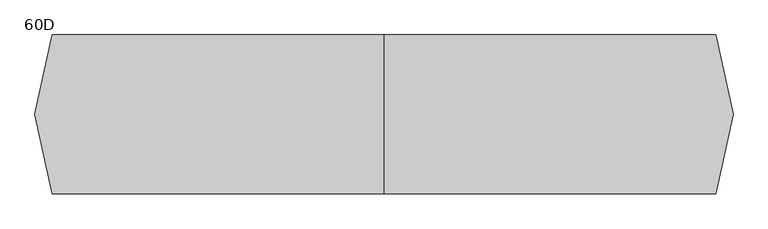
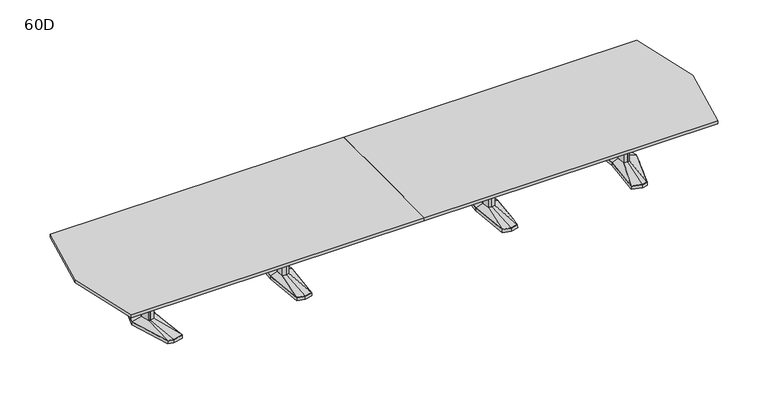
"""IFC4 building model written with IfcOpenShell, lengths in millimetres: furniture geometry, Coalesse_AM_Table_Conference_ETable2_Faceted_22ft_AluminiumBase : 60D."""

from ifc_helpers import new_model, si_unit, frame, origin, place, context, project, spatial, polyline, outline, extrude, faceted_brep, source, transform, mapped, element, save
from ifc_brep_helpers import plane_surface, spline_surface, advanced_brep


def furniture_60d_ac7cfff5(model_context):
    return source(origin(), model_context, "Body", "SolidModel", [
        faceted_brep([(1036.3666209, -433.8053819, 38.1), (1117.6, -455.556576, 38.1), (1198.8333791, -433.8053819, 38.1), (1236.6564774, 0.0, 38.1), (1198.8333791, 433.8053819, 38.1), (1117.6, 455.556576, 38.1), (1036.3666209, 433.8053819, 38.1), (998.5435226, 0.0, 38.1), (1034.8817205, -435.0512063, 3.175), (996.95, 0.0, 3.175), (1034.8817205, 435.0512063, 3.175), (1117.6, 457.2, 3.175), (1200.3182795, 435.0512063, 3.175), (1238.25, 0.0, 3.175), (1200.3182795, -435.0512063, 3.175), (1117.6, -457.2, 3.175), (1117.6, 429.2617927, 3.175), (1039.6323194, 408.3850278, 3.175), (1042.8980179, 382.9646737, 3.175), (1117.6, 402.9670094, 3.175), (1192.3019821, 382.9646737, 3.175), (1195.5676806, 408.3850278, 3.175), (1117.6, -429.2617927, 3.175), (1195.5676806, -408.3850278, 3.175), (1192.3019821, -382.9646737, 3.175), (1117.6, -402.9670094, 3.175), (1042.8980179, -382.9646737, 3.175), (1039.6323194, -408.3850278, 3.175), (1045.7425738, 114.6326257, 3.175), (1035.0573924, 0.0, 3.175), (1045.7425738, -114.6326257, 3.175), (1117.6, -133.8761372, 3.175), (1189.4574262, -114.6326257, 3.175), (1200.1426076, 0.0, 3.175), (1189.4574262, 114.6326257, 3.175), (1117.6, 133.8761372, 3.175), (1117.6, 429.2617927, 0.0), (1195.5676806, 408.3850278, 0.0), (1192.3019821, 382.9646737, 0.0), (1117.6, 402.9670094, 0.0), (1042.8980179, 382.9646737, 0.0), (1039.6323194, 408.3850278, 0.0), (1117.6, -429.2617927, 0.0), (1039.6323194, -408.3850278, 0.0), (1042.8980179, -382.9646737, 0.0), (1117.6, -402.9670094, 0.0), (1192.3019821, -382.9646737, 0.0), (1195.5676806, -408.3850278, 0.0), (1045.7425738, 114.6326257, 0.0), (1117.6, 133.8761372, 0.0), (1189.4574262, 114.6326257, 0.0), (1200.1426076, 0.0, 0.0), (1189.4574262, -114.6326257, 0.0), (1117.6, -133.8761372, 0.0), (1045.7425738, -114.6326257, 0.0), (1035.0573924, 0.0, 0.0)], [[[0, 1, 2, 3, 4, 5, 6, 7]], [[8, 9, 10, 11, 12, 13, 14, 15], [16, 17, 18, 19, 20, 21], [22, 23, 24, 25, 26, 27], [28, 29, 30, 31, 32, 33, 34, 35]], [[1, 0, 8, 15]], [[2, 1, 15, 14]], [[3, 2, 14, 13]], [[4, 3, 13, 12]], [[5, 4, 12, 11]], [[6, 5, 11, 10]], [[7, 6, 10, 9]], [[0, 7, 9, 8]], [[36, 37, 38, 39, 40, 41]], [[42, 43, 44, 45, 46, 47]], [[48, 49, 50, 51, 52, 53, 54, 55]], [[36, 41, 17, 16]], [[41, 40, 18, 17]], [[40, 39, 19, 18]], [[39, 38, 20, 19]], [[38, 37, 21, 20]], [[37, 36, 16, 21]], [[42, 47, 23, 22]], [[47, 46, 24, 23]], [[46, 45, 25, 24]], [[45, 44, 26, 25]], [[44, 43, 27, 26]], [[43, 42, 22, 27]], [[48, 55, 29, 28]], [[55, 54, 30, 29]], [[54, 53, 31, 30]], [[53, 52, 32, 31]], [[52, 51, 33, 32]], [[51, 50, 34, 33]], [[50, 49, 35, 34]], [[49, 48, 28, 35]]]),
        faceted_brep([(1081.2167166, 84.6900825, 698.5), (1073.3225513, 0.0, 698.5), (1081.2167166, -84.6900825, 698.5), (1117.6, -94.4335728, 698.5), (1153.9832834, -84.6900825, 698.5), (1161.8774487, 0.0, 698.5), (1153.9832834, 84.6900825, 698.5), (1117.6, 94.4335728, 698.5), (1081.2167166, 84.6900825, 63.5), (1117.6, 94.4335728, 63.5), (1153.9832834, 84.6900825, 63.5), (1161.8774487, 0.0, 63.5), (1153.9832834, -84.6900825, 63.5), (1117.6, -94.4335728, 63.5), (1081.2167166, -84.6900825, 63.5), (1073.3225513, 0.0, 63.5)], [[[0, 1, 2, 3, 4, 5, 6, 7]], [[8, 9, 10, 11, 12, 13, 14, 15]], [[1, 0, 8, 15]], [[2, 1, 15, 14]], [[3, 2, 14, 13]], [[4, 3, 13, 12]], [[5, 4, 12, 11]], [[6, 5, 11, 10]], [[7, 6, 10, 9]], [[0, 7, 9, 8]]]),
        advanced_brep(
        [(1081.2167166, 84.6900825, 63.5), (1073.3225513, 0.0, 63.5), (1081.2167166, -84.6900825, 63.5), (1117.6, -94.4335728, 63.5), (1153.9832834, -84.6900825, 63.5), (1161.8774487, 0.0, 63.5), (1153.9832834, 84.6900825, 63.5), (1117.6, 94.4335728, 63.5), (1036.3666209, 433.8053819, 38.1), (1117.6, 455.556576, 38.1), (1198.8333791, 433.8053819, 38.1), (1236.6564774, 0.0, 38.1), (1198.8333791, -433.8053819, 38.1), (1117.6, -455.556576, 38.1), (1036.3666209, -433.8053819, 38.1), (998.5435226, 0.0, 38.1)],
        [
            (0, 1),
            (1, 2),
            (2, 3),
            (3, 4),
            (4, 5),
            (5, 6),
            (6, 7),
            (7, 0),
            (8, 9),
            (9, 10),
            (10, 11),
            (11, 12),
            (12, 13),
            (13, 14),
            (14, 15),
            (15, 8),
            (15, 1),
            (0, 8),
            (14, 2),
            (13, 3),
            (12, 4),
            (11, 5),
            (10, 6),
            (9, 7),
        ],
        [
            plane_surface(frame((1117.6, 0.0, 63.5), z_axis=(0.0, 0.0, 1.0000000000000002), x_axis=(-0.9659615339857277, -0.25868574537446, 0.0))),
            plane_surface(frame((1117.6, 0.0, 38.1), z_axis=(0.0, 0.0, -1.0000000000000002), x_axis=(-0.9659615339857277, -0.25868574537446, 0.0))),
            spline_surface(1, 1, [[(1036.3666209, 433.8053819, 38.1), (1081.2167166, 84.6900825, 63.5)], [(998.5435226, 0.0, 38.1), (1073.3225513, 0.0, 63.5)]], [2, 2], [2, 2], [0.0, 1.0], [0.0, 1.0]),
            spline_surface(1, 1, [[(998.5435226, 0.0, 38.1), (1073.3225513, 0.0, 63.5)], [(1036.3666209, -433.8053819, 38.1), (1081.2167166, -84.6900825, 63.5)]], [2, 2], [2, 2], [0.0, 1.0], [0.0, 1.0]),
            spline_surface(1, 1, [[(1036.3666209, -433.8053819, 38.1), (1081.2167166, -84.6900825, 63.5)], [(1117.6, -455.556576, 38.1), (1117.6, -94.4335728, 63.5)]], [2, 2], [2, 2], [0.0, 1.0], [0.0, 1.0]),
            spline_surface(1, 1, [[(1117.6, -455.556576, 38.1), (1117.6, -94.4335728, 63.5)], [(1198.8333791, -433.8053819, 38.1), (1153.9832834, -84.6900825, 63.5)]], [2, 2], [2, 2], [0.0, 1.0], [0.0, 1.0]),
            spline_surface(1, 1, [[(1198.8333791, -433.8053819, 38.1), (1153.9832834, -84.6900825, 63.5)], [(1236.6564774, 0.0, 38.1), (1161.8774487, 0.0, 63.5)]], [2, 2], [2, 2], [0.0, 1.0], [0.0, 1.0]),
            spline_surface(1, 1, [[(1236.6564774, 0.0, 38.1), (1161.8774487, 0.0, 63.5)], [(1198.8333791, 433.8053819, 38.1), (1153.9832834, 84.6900825, 63.5)]], [2, 2], [2, 2], [0.0, 1.0], [0.0, 1.0]),
            spline_surface(1, 1, [[(1198.8333791, 433.8053819, 38.1), (1153.9832834, 84.6900825, 63.5)], [(1117.6, 455.556576, 38.1), (1117.6, 94.4335728, 63.5)]], [2, 2], [2, 2], [0.0, 1.0], [0.0, 1.0]),
            spline_surface(1, 1, [[(1117.6, 455.556576, 38.1), (1117.6, 94.4335728, 63.5)], [(1036.3666209, 433.8053819, 38.1), (1081.2167166, 84.6900825, 63.5)]], [2, 2], [2, 2], [0.0, 1.0], [0.0, 1.0]),
        ],
        [
            (0, [[1, 2, 3, 4, 5, 6, 7, 8]]),
            (1, [[9, 10, 11, 12, 13, 14, 15, 16]]),
            (2, [[-16, 17, -1, 18]]),
            (3, [[-15, 19, -2, -17]]),
            (4, [[-14, 20, -3, -19]]),
            (5, [[-13, 21, -4, -20]]),
            (6, [[-12, 22, -5, -21]]),
            (7, [[-11, 23, -6, -22]]),
            (8, [[-10, 24, -7, -23]]),
            (9, [[-9, -18, -8, -24]]),
        ],
    ),
        faceted_brep([(-1198.8333791, -433.8053819, 38.1), (-1117.6, -455.556576, 38.1), (-1036.3666209, -433.8053819, 38.1), (-998.5435226, 0.0, 38.1), (-1036.3666209, 433.8053819, 38.1), (-1117.6, 455.556576, 38.1), (-1198.8333791, 433.8053819, 38.1), (-1236.6564774, 0.0, 38.1), (-1200.3182795, -435.0512063, 3.175), (-1238.25, 0.0, 3.175), (-1200.3182795, 435.0512063, 3.175), (-1117.6, 457.2, 3.175), (-1034.8817205, 435.0512063, 3.175), (-996.95, 0.0, 3.175), (-1034.8817205, -435.0512063, 3.175), (-1117.6, -457.2, 3.175), (-1117.6, 429.2617927, 3.175), (-1195.5676806, 408.3850278, 3.175), (-1192.3019821, 382.9646737, 3.175), (-1117.6, 402.9670094, 3.175), (-1042.8980179, 382.9646737, 3.175), (-1039.6323194, 408.3850278, 3.175), (-1117.6, -429.2617927, 3.175), (-1039.6323194, -408.3850278, 3.175), (-1042.8980179, -382.9646737, 3.175), (-1117.6, -402.9670094, 3.175), (-1192.3019821, -382.9646737, 3.175), (-1195.5676806, -408.3850278, 3.175), (-1189.4574262, 114.6326257, 3.175), (-1200.1426076, 0.0, 3.175), (-1189.4574262, -114.6326257, 3.175), (-1117.6, -133.8761372, 3.175), (-1045.7425738, -114.6326257, 3.175), (-1035.0573924, 0.0, 3.175), (-1045.7425738, 114.6326257, 3.175), (-1117.6, 133.8761372, 3.175), (-1117.6, 429.2617927, 0.0), (-1039.6323194, 408.3850278, 0.0), (-1042.8980179, 382.9646737, 0.0), (-1117.6, 402.9670094, 0.0), (-1192.3019821, 382.9646737, 0.0), (-1195.5676806, 408.3850278, 0.0), (-1117.6, -429.2617927, 0.0), (-1195.5676806, -408.3850278, 0.0), (-1192.3019821, -382.9646737, 0.0), (-1117.6, -402.9670094, 0.0), (-1042.8980179, -382.9646737, 0.0), (-1039.6323194, -408.3850278, 0.0), (-1189.4574262, 114.6326257, 0.0), (-1117.6, 133.8761372, 0.0), (-1045.7425738, 114.6326257, 0.0), (-1035.0573924, 0.0, 0.0), (-1045.7425738, -114.6326257, 0.0), (-1117.6, -133.8761372, 0.0), (-1189.4574262, -114.6326257, 0.0), (-1200.1426076, 0.0, 0.0)], [[[0, 1, 2, 3, 4, 5, 6, 7]], [[8, 9, 10, 11, 12, 13, 14, 15], [16, 17, 18, 19, 20, 21], [22, 23, 24, 25, 26, 27], [28, 29, 30, 31, 32, 33, 34, 35]], [[1, 0, 8, 15]], [[2, 1, 15, 14]], [[3, 2, 14, 13]], [[4, 3, 13, 12]], [[5, 4, 12, 11]], [[6, 5, 11, 10]], [[7, 6, 10, 9]], [[0, 7, 9, 8]], [[36, 37, 38, 39, 40, 41]], [[42, 43, 44, 45, 46, 47]], [[48, 49, 50, 51, 52, 53, 54, 55]], [[36, 41, 17, 16]], [[41, 40, 18, 17]], [[40, 39, 19, 18]], [[39, 38, 20, 19]], [[38, 37, 21, 20]], [[37, 36, 16, 21]], [[42, 47, 23, 22]], [[47, 46, 24, 23]], [[46, 45, 25, 24]], [[45, 44, 26, 25]], [[44, 43, 27, 26]], [[43, 42, 22, 27]], [[48, 55, 29, 28]], [[55, 54, 30, 29]], [[54, 53, 31, 30]], [[53, 52, 32, 31]], [[52, 51, 33, 32]], [[51, 50, 34, 33]], [[50, 49, 35, 34]], [[49, 48, 28, 35]]]),
        faceted_brep([(-1153.9832834, 84.6900825, 698.5), (-1161.8774487, 0.0, 698.5), (-1153.9832834, -84.6900825, 698.5), (-1117.6, -94.4335728, 698.5), (-1081.2167166, -84.6900825, 698.5), (-1073.3225513, 0.0, 698.5), (-1081.2167166, 84.6900825, 698.5), (-1117.6, 94.4335728, 698.5), (-1153.9832834, 84.6900825, 63.5), (-1117.6, 94.4335728, 63.5), (-1081.2167166, 84.6900825, 63.5), (-1073.3225513, 0.0, 63.5), (-1081.2167166, -84.6900825, 63.5), (-1117.6, -94.4335728, 63.5), (-1153.9832834, -84.6900825, 63.5), (-1161.8774487, 0.0, 63.5)], [[[0, 1, 2, 3, 4, 5, 6, 7]], [[8, 9, 10, 11, 12, 13, 14, 15]], [[1, 0, 8, 15]], [[2, 1, 15, 14]], [[3, 2, 14, 13]], [[4, 3, 13, 12]], [[5, 4, 12, 11]], [[6, 5, 11, 10]], [[7, 6, 10, 9]], [[0, 7, 9, 8]]]),
        advanced_brep(
        [(-1153.9832834, 84.6900825, 63.5), (-1161.8774487, 0.0, 63.5), (-1153.9832834, -84.6900825, 63.5), (-1117.6, -94.4335728, 63.5), (-1081.2167166, -84.6900825, 63.5), (-1073.3225513, 0.0, 63.5), (-1081.2167166, 84.6900825, 63.5), (-1117.6, 94.4335728, 63.5), (-1198.8333791, 433.8053819, 38.1), (-1117.6, 455.556576, 38.1), (-1036.3666209, 433.8053819, 38.1), (-998.5435226, 0.0, 38.1), (-1036.3666209, -433.8053819, 38.1), (-1117.6, -455.556576, 38.1), (-1198.8333791, -433.8053819, 38.1), (-1236.6564774, 0.0, 38.1)],
        [
            (0, 1),
            (1, 2),
            (2, 3),
            (3, 4),
            (4, 5),
            (5, 6),
            (6, 7),
            (7, 0),
            (8, 9),
            (9, 10),
            (10, 11),
            (11, 12),
            (12, 13),
            (13, 14),
            (14, 15),
            (15, 8),
            (15, 1),
            (0, 8),
            (14, 2),
            (13, 3),
            (12, 4),
            (11, 5),
            (10, 6),
            (9, 7),
        ],
        [
            plane_surface(frame((-1117.6, 0.0, 63.5), z_axis=(0.0, 0.0, 1.0000000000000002), x_axis=(-0.9659615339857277, -0.25868574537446, 0.0))),
            plane_surface(frame((-1117.6, 0.0, 38.1), z_axis=(0.0, 0.0, -1.0000000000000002), x_axis=(-0.9659615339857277, -0.25868574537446, 0.0))),
            spline_surface(1, 1, [[(-1198.8333791, 433.8053819, 38.1), (-1153.9832834, 84.6900825, 63.5)], [(-1236.6564774, 0.0, 38.1), (-1161.8774487, 0.0, 63.5)]], [2, 2], [2, 2], [0.0, 1.0], [0.0, 1.0]),
            spline_surface(1, 1, [[(-1236.6564774, 0.0, 38.1), (-1161.8774487, 0.0, 63.5)], [(-1198.8333791, -433.8053819, 38.1), (-1153.9832834, -84.6900825, 63.5)]], [2, 2], [2, 2], [0.0, 1.0], [0.0, 1.0]),
            spline_surface(1, 1, [[(-1198.8333791, -433.8053819, 38.1), (-1153.9832834, -84.6900825, 63.5)], [(-1117.6, -455.556576, 38.1), (-1117.6, -94.4335728, 63.5)]], [2, 2], [2, 2], [0.0, 1.0], [0.0, 1.0]),
            spline_surface(1, 1, [[(-1117.6, -455.556576, 38.1), (-1117.6, -94.4335728, 63.5)], [(-1036.3666209, -433.8053819, 38.1), (-1081.2167166, -84.6900825, 63.5)]], [2, 2], [2, 2], [0.0, 1.0], [0.0, 1.0]),
            spline_surface(1, 1, [[(-1036.3666209, -433.8053819, 38.1), (-1081.2167166, -84.6900825, 63.5)], [(-998.5435226, 0.0, 38.1), (-1073.3225513, 0.0, 63.5)]], [2, 2], [2, 2], [0.0, 1.0], [0.0, 1.0]),
            spline_surface(1, 1, [[(-998.5435226, 0.0, 38.1), (-1073.3225513, 0.0, 63.5)], [(-1036.3666209, 433.8053819, 38.1), (-1081.2167166, 84.6900825, 63.5)]], [2, 2], [2, 2], [0.0, 1.0], [0.0, 1.0]),
            spline_surface(1, 1, [[(-1036.3666209, 433.8053819, 38.1), (-1081.2167166, 84.6900825, 63.5)], [(-1117.6, 455.556576, 38.1), (-1117.6, 94.4335728, 63.5)]], [2, 2], [2, 2], [0.0, 1.0], [0.0, 1.0]),
            spline_surface(1, 1, [[(-1117.6, 455.556576, 38.1), (-1117.6, 94.4335728, 63.5)], [(-1198.8333791, 433.8053819, 38.1), (-1153.9832834, 84.6900825, 63.5)]], [2, 2], [2, 2], [0.0, 1.0], [0.0, 1.0]),
        ],
        [
            (0, [[1, 2, 3, 4, 5, 6, 7, 8]]),
            (1, [[9, 10, 11, 12, 13, 14, 15, 16]]),
            (2, [[-16, 17, -1, 18]]),
            (3, [[-15, 19, -2, -17]]),
            (4, [[-14, 20, -3, -19]]),
            (5, [[-13, 21, -4, -20]]),
            (6, [[-12, 22, -5, -21]]),
            (7, [[-11, 23, -6, -22]]),
            (8, [[-10, 24, -7, -23]]),
            (9, [[-9, -18, -8, -24]]),
        ],
    ),
        faceted_brep([(2548.0994335, 455.5848221, 38.1), (2438.5218777, 426.2263816, 38.1), (2479.6851217, 0.0, 38.1), (2438.5218777, -426.2263816, 38.1), (2548.0994335, -455.5848221, 38.1), (2604.2257896, -440.5478297, 38.1), (2741.5371769, 0.0, 38.1), (2604.2257896, 440.5478297, 38.1), (2548.0994254, 457.2283104, 3.175), (2605.4811972, 441.8549756, 3.175), (2743.2, 0.0, 3.175), (2605.4811972, -441.8549756, 3.175), (2548.0994254, -457.2283104, 3.175), (2436.8125, -427.4118891, 3.175), (2478.0902356, 0.0, 3.175), (2436.8125, 427.4118891, 3.175), (2551.688865, 428.3273875, 3.175), (2446.6405728, 402.1057253, 3.175), (2454.759268, 377.985069, 3.175), (2555.2782966, 401.0699529, 3.175), (2605.8379225, 387.524361, 3.175), (2605.0318561, 414.0360954, 3.175), (2551.688865, -428.3273875, 3.175), (2605.0318561, -414.0360954, 3.175), (2605.8379225, -387.524361, 3.175), (2555.2782966, -401.0699529, 3.175), (2454.759268, -377.985069, 3.175), (2446.6405728, -402.1057253, 3.175), (2678.2841121, 0.0, 3.175), (2646.0147111, 120.4193755, 3.175), (2597.3674722, 133.471665, 3.175), (2517.4868026, 119.4176561, 3.175), (2506.3555966, 0.0, 3.175), (2517.4868026, -119.4176561, 3.175), (2597.3674722, -133.471665, 3.175), (2646.0147111, -120.4193755, 3.175), (2551.688865, 428.3273875, 0.0), (2605.0318561, 414.0360954, 0.0), (2605.8379225, 387.524361, 0.0), (2555.2782966, 401.0699529, 0.0), (2454.759268, 377.985069, 0.0), (2446.6405728, 402.1057253, 0.0), (2551.688865, -428.3273875, 0.0), (2446.6405728, -402.1057253, 0.0), (2454.759268, -377.985069, 0.0), (2555.2782966, -401.0699529, 0.0), (2605.8379225, -387.524361, 0.0), (2605.0318561, -414.0360954, 0.0), (2678.2841121, 0.0, 0.0), (2646.0147111, -120.4193755, 0.0), (2597.3674722, -133.471665, 0.0), (2517.4868026, -119.4176561, 0.0), (2506.3555966, 0.0, 0.0), (2517.4868026, 119.4176561, 0.0), (2597.3674722, 133.471665, 0.0), (2646.0147111, 120.4193755, 0.0)], [[[0, 1, 2, 3, 4, 5, 6, 7]], [[8, 9, 10, 11, 12, 13, 14, 15], [16, 17, 18, 19, 20, 21], [22, 23, 24, 25, 26, 27], [28, 29, 30, 31, 32, 33, 34, 35]], [[7, 9, 8, 0]], [[6, 10, 9, 7]], [[5, 11, 10, 6]], [[4, 12, 11, 5]], [[3, 13, 12, 4]], [[2, 14, 13, 3]], [[1, 15, 14, 2]], [[0, 8, 15, 1]], [[36, 37, 38, 39, 40, 41]], [[42, 43, 44, 45, 46, 47]], [[48, 49, 50, 51, 52, 53, 54, 55]], [[36, 16, 21, 37]], [[37, 21, 20, 38]], [[38, 20, 19, 39]], [[39, 19, 18, 40]], [[40, 18, 17, 41]], [[41, 17, 16, 36]], [[42, 22, 27, 43]], [[43, 27, 26, 44]], [[44, 26, 25, 45]], [[45, 25, 24, 46]], [[46, 24, 23, 47]], [[47, 23, 22, 42]], [[48, 28, 35, 49]], [[49, 35, 34, 50]], [[50, 34, 33, 51]], [[51, 33, 32, 52]], [[52, 32, 31, 53]], [[53, 31, 30, 54]], [[54, 30, 29, 55]], [[55, 29, 28, 48]]]),
        faceted_brep([(2638.8398336, 0.0, 698.5), (2614.9046046, 89.3188359, 698.5), (2598.0512484, 93.8406728, 698.5), (2595.6514011, 94.4845635, 698.5), (2552.723896, 86.9320037, 698.5), (2544.6207556, 0.0, 698.5), (2552.723896, -86.9320037, 698.5), (2595.6514011, -94.4845635, 698.5), (2598.0512484, -93.8406728, 698.5), (2614.9046046, -89.3188359, 698.5), (2638.8398336, 0.0, 63.5), (2614.9046046, -89.3188359, 63.5), (2598.0512484, -93.8406728, 63.5), (2595.6514011, -94.4845635, 63.5), (2552.723896, -86.9320037, 63.5), (2544.6207556, 0.0, 63.5), (2552.723896, 86.9320037, 63.5), (2595.6514011, 94.4845635, 63.5), (2598.0512484, 93.8406728, 63.5), (2614.9046046, 89.3188359, 63.5)], [[[0, 1, 2, 3, 4, 5, 6, 7, 8, 9]], [[10, 11, 12, 13, 14, 15, 16, 17, 18, 19]], [[9, 11, 10, 0]], [[8, 12, 11, 9]], [[7, 13, 12, 8]], [[6, 14, 13, 7]], [[5, 15, 14, 6]], [[4, 16, 15, 5]], [[3, 17, 16, 4]], [[2, 18, 17, 3]], [[1, 19, 18, 2]], [[0, 10, 19, 1]]]),
        advanced_brep(
        [(2595.6514011, 94.4845635, 63.5), (2552.723896, 86.9320037, 63.5), (2544.6207556, 0.0, 63.5), (2552.723896, -86.9320037, 63.5), (2595.6514011, -94.4845635, 63.5), (2614.9046046, -89.3188359, 63.5), (2638.8398336, 0.0, 63.5), (2614.9046046, 89.3188359, 63.5), (2548.0994335, 455.5848221, 38.1), (2604.2257896, 440.5478297, 38.1), (2741.5371769, 0.0, 38.1), (2604.2257896, -440.5478297, 38.1), (2548.0994335, -455.5848221, 38.1), (2438.5218777, -426.2263816, 38.1), (2479.6851217, 0.0, 38.1), (2438.5218777, 426.2263816, 38.1)],
        [
            (0, 1),
            (1, 2),
            (2, 3),
            (3, 4),
            (4, 5),
            (5, 6),
            (6, 7),
            (7, 0),
            (8, 9),
            (9, 10),
            (10, 11),
            (11, 12),
            (12, 13),
            (13, 14),
            (14, 15),
            (15, 8),
            (8, 0),
            (7, 9),
            (6, 10),
            (5, 11),
            (4, 12),
            (3, 13),
            (2, 14),
            (1, 15),
        ],
        [
            plane_surface(frame((2588.7525491, 0.0, 63.5), z_axis=(0.0, 0.0, 1.0), x_axis=(-0.25884244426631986, -0.9659195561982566, 0.0))),
            plane_surface(frame((2550.3645625, 0.0, 38.1), z_axis=(0.0, 0.0, -1.0), x_axis=(-0.25884244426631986, -0.9659195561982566, 0.0))),
            spline_surface(1, 1, [[(2548.0994335, 455.5848221, 38.1), (2604.2257896, 440.5478297, 38.1)], [(2595.6514011, 94.4845635, 63.5), (2614.9046046, 89.3188359, 63.5)]], [2, 2], [2, 2], [0.0, 1.0], [0.0, 1.0]),
            spline_surface(1, 1, [[(2604.2257896, 440.5478297, 38.1), (2741.5371769, 0.0, 38.1)], [(2614.9046046, 89.3188359, 63.5), (2638.8398336, 0.0, 63.5)]], [2, 2], [2, 2], [0.0, 1.0], [0.0, 1.0]),
            spline_surface(1, 1, [[(2741.5371769, 0.0, 38.1), (2604.2257896, -440.5478297, 38.1)], [(2638.8398336, 0.0, 63.5), (2614.9046046, -89.3188359, 63.5)]], [2, 2], [2, 2], [0.0, 1.0], [0.0, 1.0]),
            spline_surface(1, 1, [[(2604.2257896, -440.5478297, 38.1), (2548.0994335, -455.5848221, 38.1)], [(2614.9046046, -89.3188359, 63.5), (2595.6514011, -94.4845635, 63.5)]], [2, 2], [2, 2], [0.0, 1.0], [0.0, 1.0]),
            spline_surface(1, 1, [[(2548.0994335, -455.5848221, 38.1), (2438.5218777, -426.2263816, 38.1)], [(2595.6514011, -94.4845635, 63.5), (2552.723896, -86.9320037, 63.5)]], [2, 2], [2, 2], [0.0, 1.0], [0.0, 1.0]),
            spline_surface(1, 1, [[(2438.5218777, -426.2263816, 38.1), (2479.6851217, 0.0, 38.1)], [(2552.723896, -86.9320037, 63.5), (2544.6207556, 0.0, 63.5)]], [2, 2], [2, 2], [0.0, 1.0], [0.0, 1.0]),
            spline_surface(1, 1, [[(2479.6851217, 0.0, 38.1), (2438.5218777, 426.2263816, 38.1)], [(2544.6207556, 0.0, 63.5), (2552.723896, 86.9320037, 63.5)]], [2, 2], [2, 2], [0.0, 1.0], [0.0, 1.0]),
            spline_surface(1, 1, [[(2438.5218777, 426.2263816, 38.1), (2548.0994335, 455.5848221, 38.1)], [(2552.723896, 86.9320037, 63.5), (2595.6514011, 94.4845635, 63.5)]], [2, 2], [2, 2], [0.0, 1.0], [0.0, 1.0]),
        ],
        [
            (0, [[1, 2, 3, 4, 5, 6, 7, 8]]),
            (1, [[9, 10, 11, 12, 13, 14, 15, 16]]),
            (2, [[17, -8, 18, -9]]),
            (3, [[-18, -7, 19, -10]]),
            (4, [[-19, -6, 20, -11]]),
            (5, [[-20, -5, 21, -12]]),
            (6, [[-21, -4, 22, -13]]),
            (7, [[-22, -3, 23, -14]]),
            (8, [[-23, -2, 24, -15]]),
            (9, [[-24, -1, -17, -16]]),
        ],
    ),
        faceted_brep([(-2548.0994335, 455.5848221, 38.1), (-2604.2257896, 440.5478297, 38.1), (-2741.5371769, 0.0, 38.1), (-2604.2257896, -440.5478297, 38.1), (-2548.0994335, -455.5848221, 38.1), (-2438.5218777, -426.2263816, 38.1), (-2479.6851217, 0.0, 38.1), (-2438.5218777, 426.2263816, 38.1), (-2548.0994254, 457.2283104, 3.175), (-2436.8125, 427.4118891, 3.175), (-2478.0902356, 0.0, 3.175), (-2436.8125, -427.4118891, 3.175), (-2548.0994254, -457.2283104, 3.175), (-2605.4811972, -441.8549756, 3.175), (-2743.2, 0.0, 3.175), (-2605.4811972, 441.8549756, 3.175), (-2551.688865, 428.3273875, 3.175), (-2605.0318561, 414.0360954, 3.175), (-2605.8379225, 387.524361, 3.175), (-2555.2782966, 401.0699529, 3.175), (-2454.759268, 377.985069, 3.175), (-2446.6405728, 402.1057253, 3.175), (-2551.688865, -428.3273875, 3.175), (-2446.6405728, -402.1057253, 3.175), (-2454.759268, -377.985069, 3.175), (-2555.2782966, -401.0699529, 3.175), (-2605.8379225, -387.524361, 3.175), (-2605.0318561, -414.0360954, 3.175), (-2678.2841121, 0.0, 3.175), (-2646.0147111, -120.4193755, 3.175), (-2597.3674722, -133.471665, 3.175), (-2517.4868026, -119.4176561, 3.175), (-2506.3555966, 0.0, 3.175), (-2517.4868026, 119.4176561, 3.175), (-2597.3674722, 133.471665, 3.175), (-2646.0147111, 120.4193755, 3.175), (-2551.688865, 428.3273875, 0.0), (-2446.6405728, 402.1057253, 0.0), (-2454.759268, 377.985069, 0.0), (-2555.2782966, 401.0699529, 0.0), (-2605.8379225, 387.524361, 0.0), (-2605.0318561, 414.0360954, 0.0), (-2551.688865, -428.3273875, 0.0), (-2605.0318561, -414.0360954, 0.0), (-2605.8379225, -387.524361, 0.0), (-2555.2782966, -401.0699529, 0.0), (-2454.759268, -377.985069, 0.0), (-2446.6405728, -402.1057253, 0.0), (-2678.2841121, 0.0, 0.0), (-2646.0147111, 120.4193755, 0.0), (-2597.3674722, 133.471665, 0.0), (-2517.4868026, 119.4176561, 0.0), (-2506.3555966, 0.0, 0.0), (-2517.4868026, -119.4176561, 0.0), (-2597.3674722, -133.471665, 0.0), (-2646.0147111, -120.4193755, 0.0)], [[[0, 1, 2, 3, 4, 5, 6, 7]], [[8, 9, 10, 11, 12, 13, 14, 15], [16, 17, 18, 19, 20, 21], [22, 23, 24, 25, 26, 27], [28, 29, 30, 31, 32, 33, 34, 35]], [[1, 0, 8, 15]], [[2, 1, 15, 14]], [[3, 2, 14, 13]], [[4, 3, 13, 12]], [[5, 4, 12, 11]], [[6, 5, 11, 10]], [[7, 6, 10, 9]], [[0, 7, 9, 8]], [[36, 37, 38, 39, 40, 41]], [[42, 43, 44, 45, 46, 47]], [[48, 49, 50, 51, 52, 53, 54, 55]], [[36, 41, 17, 16]], [[41, 40, 18, 17]], [[40, 39, 19, 18]], [[39, 38, 20, 19]], [[38, 37, 21, 20]], [[37, 36, 16, 21]], [[42, 47, 23, 22]], [[47, 46, 24, 23]], [[46, 45, 25, 24]], [[45, 44, 26, 25]], [[44, 43, 27, 26]], [[43, 42, 22, 27]], [[48, 55, 29, 28]], [[55, 54, 30, 29]], [[54, 53, 31, 30]], [[53, 52, 32, 31]], [[52, 51, 33, 32]], [[51, 50, 34, 33]], [[50, 49, 35, 34]], [[49, 48, 28, 35]]]),
        faceted_brep([(-2638.8398336, 0.0, 698.5), (-2614.9046046, -89.3188359, 698.5), (-2598.0512484, -93.8406728, 698.5), (-2595.6514011, -94.4845635, 698.5), (-2552.723896, -86.9320037, 698.5), (-2544.6207556, 0.0, 698.5), (-2552.723896, 86.9320037, 698.5), (-2595.6514011, 94.4845635, 698.5), (-2598.0512484, 93.8406728, 698.5), (-2614.9046046, 89.3188359, 698.5), (-2638.8398336, 0.0, 63.5), (-2614.9046046, 89.3188359, 63.5), (-2598.0512484, 93.8406728, 63.5), (-2595.6514011, 94.4845635, 63.5), (-2552.723896, 86.9320037, 63.5), (-2544.6207556, 0.0, 63.5), (-2552.723896, -86.9320037, 63.5), (-2595.6514011, -94.4845635, 63.5), (-2598.0512484, -93.8406728, 63.5), (-2614.9046046, -89.3188359, 63.5)], [[[0, 1, 2, 3, 4, 5, 6, 7, 8, 9]], [[10, 11, 12, 13, 14, 15, 16, 17, 18, 19]], [[1, 0, 10, 19]], [[2, 1, 19, 18]], [[3, 2, 18, 17]], [[4, 3, 17, 16]], [[5, 4, 16, 15]], [[6, 5, 15, 14]], [[7, 6, 14, 13]], [[8, 7, 13, 12]], [[9, 8, 12, 11]], [[0, 9, 11, 10]]]),
        advanced_brep(
        [(-2595.6514011, 94.4845635, 63.5), (-2614.9046046, 89.3188359, 63.5), (-2638.8398336, 0.0, 63.5), (-2614.9046046, -89.3188359, 63.5), (-2595.6514011, -94.4845635, 63.5), (-2552.723896, -86.9320037, 63.5), (-2544.6207556, 0.0, 63.5), (-2552.723896, 86.9320037, 63.5), (-2548.0994335, 455.5848221, 38.1), (-2438.5218777, 426.2263816, 38.1), (-2479.6851217, 0.0, 38.1), (-2438.5218777, -426.2263816, 38.1), (-2548.0994335, -455.5848221, 38.1), (-2604.2257896, -440.5478297, 38.1), (-2741.5371769, 0.0, 38.1), (-2604.2257896, 440.5478297, 38.1)],
        [
            (0, 1),
            (1, 2),
            (2, 3),
            (3, 4),
            (4, 5),
            (5, 6),
            (6, 7),
            (7, 0),
            (8, 9),
            (9, 10),
            (10, 11),
            (11, 12),
            (12, 13),
            (13, 14),
            (14, 15),
            (15, 8),
            (15, 1),
            (0, 8),
            (14, 2),
            (13, 3),
            (12, 4),
            (11, 5),
            (10, 6),
            (9, 7),
        ],
        [
            plane_surface(frame((-2588.7525491, 0.0, 63.5), z_axis=(0.0, 0.0, 1.0), x_axis=(0.25884244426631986, -0.9659195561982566, 0.0))),
            plane_surface(frame((-2550.3645625, 0.0, 38.1), z_axis=(0.0, 0.0, -1.0), x_axis=(0.25884244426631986, -0.9659195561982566, 0.0))),
            spline_surface(1, 1, [[(-2548.0994335, 455.5848221, 38.1), (-2595.6514011, 94.4845635, 63.5)], [(-2604.2257896, 440.5478297, 38.1), (-2614.9046046, 89.3188359, 63.5)]], [2, 2], [2, 2], [0.0, 1.0], [0.0, 1.0]),
            spline_surface(1, 1, [[(-2604.2257896, 440.5478297, 38.1), (-2614.9046046, 89.3188359, 63.5)], [(-2741.5371769, 0.0, 38.1), (-2638.8398336, 0.0, 63.5)]], [2, 2], [2, 2], [0.0, 1.0], [0.0, 1.0]),
            spline_surface(1, 1, [[(-2741.5371769, 0.0, 38.1), (-2638.8398336, 0.0, 63.5)], [(-2604.2257896, -440.5478297, 38.1), (-2614.9046046, -89.3188359, 63.5)]], [2, 2], [2, 2], [0.0, 1.0], [0.0, 1.0]),
            spline_surface(1, 1, [[(-2604.2257896, -440.5478297, 38.1), (-2614.9046046, -89.3188359, 63.5)], [(-2548.0994335, -455.5848221, 38.1), (-2595.6514011, -94.4845635, 63.5)]], [2, 2], [2, 2], [0.0, 1.0], [0.0, 1.0]),
            spline_surface(1, 1, [[(-2548.0994335, -455.5848221, 38.1), (-2595.6514011, -94.4845635, 63.5)], [(-2438.5218777, -426.2263816, 38.1), (-2552.723896, -86.9320037, 63.5)]], [2, 2], [2, 2], [0.0, 1.0], [0.0, 1.0]),
            spline_surface(1, 1, [[(-2438.5218777, -426.2263816, 38.1), (-2552.723896, -86.9320037, 63.5)], [(-2479.6851217, 0.0, 38.1), (-2544.6207556, 0.0, 63.5)]], [2, 2], [2, 2], [0.0, 1.0], [0.0, 1.0]),
            spline_surface(1, 1, [[(-2479.6851217, 0.0, 38.1), (-2544.6207556, 0.0, 63.5)], [(-2438.5218777, 426.2263816, 38.1), (-2552.723896, 86.9320037, 63.5)]], [2, 2], [2, 2], [0.0, 1.0], [0.0, 1.0]),
            spline_surface(1, 1, [[(-2438.5218777, 426.2263816, 38.1), (-2552.723896, 86.9320037, 63.5)], [(-2548.0994335, 455.5848221, 38.1), (-2595.6514011, 94.4845635, 63.5)]], [2, 2], [2, 2], [0.0, 1.0], [0.0, 1.0]),
        ],
        [
            (0, [[1, 2, 3, 4, 5, 6, 7, 8]]),
            (1, [[9, 10, 11, 12, 13, 14, 15, 16]]),
            (2, [[-16, 17, -1, 18]]),
            (3, [[-15, 19, -2, -17]]),
            (4, [[-14, 20, -3, -19]]),
            (5, [[-13, 21, -4, -20]]),
            (6, [[-12, 22, -5, -21]]),
            (7, [[-11, 23, -6, -22]]),
            (8, [[-10, 24, -7, -23]]),
            (9, [[-9, -18, -8, -24]]),
        ],
    ),
        extrude(outline(polyline([(96.8375, 698.5), (103.1875, 698.5), (103.1875, 476.25), (-103.1875, 476.25), (-103.1875, 698.5), (-96.8375, 698.5), (-96.8375, 482.6), (96.8375, 482.6), (96.8375, 698.5)])), frame((1161.8774487, 0.0, 0.0), z_axis=(1.0, 0.0, 0.0), x_axis=(0.0, 1.0, 0.0)), (0.0, 0.0, 1.0), 1382.8850513),
        extrude(outline(polyline([(96.8375, 698.5), (103.1875, 698.5), (103.1875, 476.25), (-103.1875, 476.25), (-103.1875, 698.5), (-96.8375, 698.5), (-96.8375, 482.6), (96.8375, 482.6), (96.8375, 698.5)])), frame((-1073.3225513, 0.0, 0.0), z_axis=(1.0, 0.0, 0.0), x_axis=(0.0, 1.0, 0.0)), (0.0, 0.0, 1.0), 2146.6451026),
        extrude(outline(polyline([(3183.8677242, 762.0), (3352.8, 0.0), (3183.8677242, -762.0), (0.0, -762.0), (0.0, 17.4619671), (0.0, 762.0), (3183.8677242, 762.0)])), frame((0.0, 0.0, 698.5), z_axis=(0.0, 0.0, 1.0), x_axis=(1.0, 0.0, 0.0)), (0.0, 0.0, 1.0), 38.1),
        extrude(outline(polyline([(0.0, 51.8614523), (0.0, -762.0), (-3183.8677242, -762.0), (-3352.8, 0.0), (-3183.8677242, 762.0), (0.0, 762.0), (0.0, 51.8614523)])), frame((0.0, 0.0, 698.5), z_axis=(0.0, 0.0, 1.0), x_axis=(1.0, 0.0, 0.0)), (0.0, 0.0, 1.0), 38.1),
        extrude(outline(polyline([(96.8375, 698.5), (103.1875, 698.5), (103.1875, 476.25), (-103.1875, 476.25), (-103.1875, 698.5), (-96.8375, 698.5), (-96.8375, 482.6), (96.8375, 482.6), (96.8375, 698.5)])), frame((-2544.7625, 0.0, 0.0), z_axis=(1.0, 0.0, 0.0), x_axis=(0.0, 1.0, 0.0)), (0.0, 0.0, 1.0), 1382.8850513),
    ])


if __name__ == "__main__":
    model = new_model("IFC4")
    model_context = context("Model", 3, world=origin())
    ifc_project = project(units=[si_unit("LENGTHUNIT", "METRE", prefix="MILLI")], contexts=[model_context])
    site = spatial("IfcSite", under=ifc_project)
    building = spatial("IfcBuilding", under=site)
    placement = place(None, origin())
    furniture_60d_shape = furniture_60d_ac7cfff5(model_context)
    element("IfcFurniture", 1, ObjectType="Coalesse_AM_Table_Conference_ETable2_Faceted_22ft_AluminiumBase : 60D", at=placement, inside=building, context=model_context, shape_type="MappedRepresentation", body=[
        mapped(furniture_60d_shape, transform((0.0, 0.0, 0.0), x_axis=(1.0, 0.0, 0.0), y_axis=(0.0, 1.0, 0.0), z_axis=(0.0, 0.0, 1.0))),
    ])
    save(model, "model.ifc")
